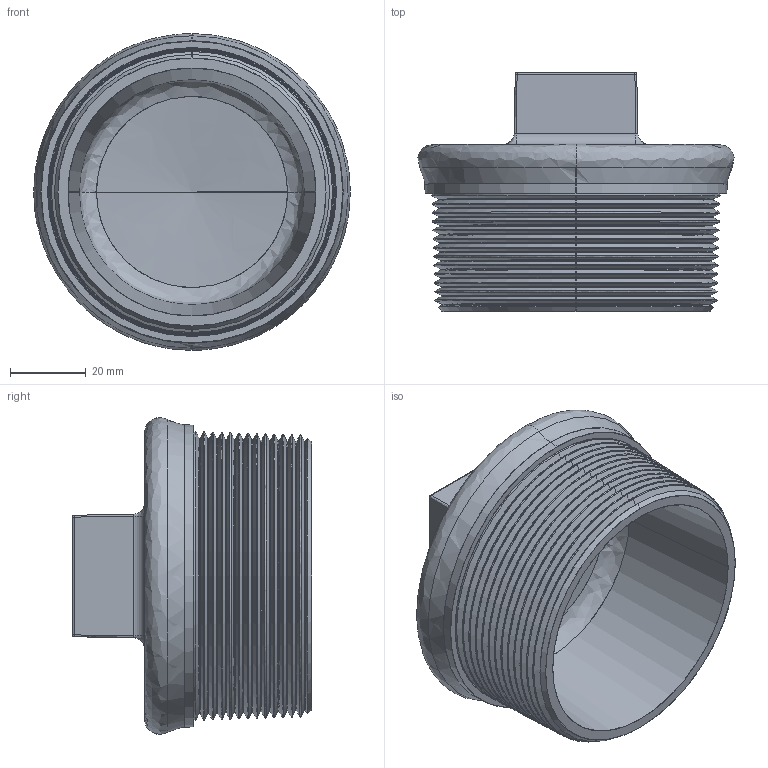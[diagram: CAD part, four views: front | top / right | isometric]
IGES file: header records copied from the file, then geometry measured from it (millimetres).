
Start section: SolidWorks IGES file using analytic representation for surfaces
Global section: file name: C:\Users\Joel Rosa\Desktop\Tubulação\12-03-OK\12-03-011.IGS; native system: SolidWorks 2011; preprocessor: SolidWorks 2011; author: Joel Rosa; date: 121203.234841; units: millimetre
Bounding box: 83.33 x 63 x 83.39 mm (x, y, z)
Surface area: 34889.4 mm2 (no closed solid volume)
Topology: 0 solids, 0 shells, 280 faces, 2438 edges, 2436 vertices
Faces by surface type: bspline 202, revolution 78
